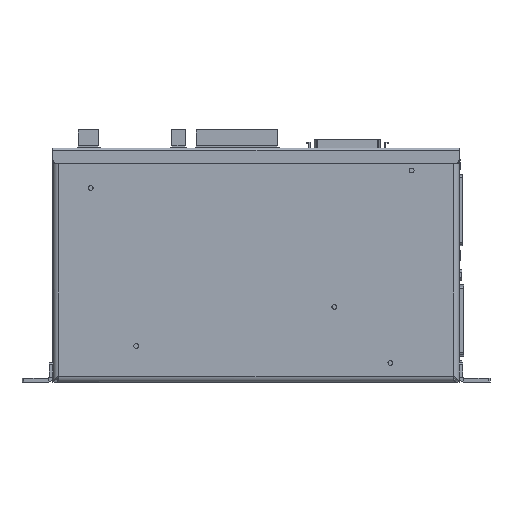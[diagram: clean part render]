
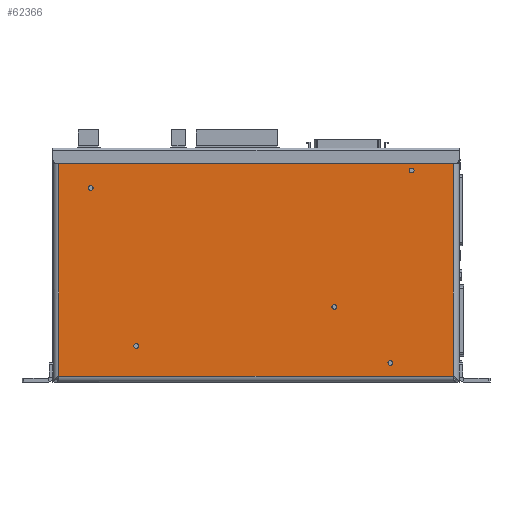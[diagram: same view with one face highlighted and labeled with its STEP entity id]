
A CAD part, front view. The second image highlights one B-rep face of the part: STEP entity #62366.
In plain terms, the highlighted planar face has unit normal (0, -1, 0).
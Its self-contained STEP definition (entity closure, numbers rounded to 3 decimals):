
#2871 = CIRCLE ( 'NONE', #9192, 1.25 ) ;
#3439 = CIRCLE ( 'NONE', #19114, 1.25 ) ;
#3751 = AXIS2_PLACEMENT_3D ( 'NONE', #19690, #26420, #73336 ) ;
#4139 = CARTESIAN_POINT ( 'NONE',  ( 40.5, 0., -22.85 ) ) ;
#4603 = ORIENTED_EDGE ( 'NONE', *, *, #80440, .T. ) ;
#5089 = CIRCLE ( 'NONE', #64207, 1.25 ) ;
#6080 = CIRCLE ( 'NONE', #3751, 1.25 ) ;
#6206 = DIRECTION ( 'NONE',  ( 0., -1., 0. ) ) ;
#6858 = DIRECTION ( 'NONE',  ( 0., -1., 0. ) ) ;
#8386 = DIRECTION ( 'NONE',  ( 0., 0., -1. ) ) ;
#8772 = EDGE_LOOP ( 'NONE', ( #52245, #49761 ) ) ;
#8913 = ORIENTED_EDGE ( 'NONE', *, *, #81924, .T. ) ;
#9192 = AXIS2_PLACEMENT_3D ( 'NONE', #67789, #67225, #60510 ) ;
#9801 = ORIENTED_EDGE ( 'NONE', *, *, #29728, .F. ) ;
#9946 = EDGE_CURVE ( 'NONE', #32118, #29162, #42050, .T. ) ;
#10202 = DIRECTION ( 'NONE',  ( 0., -1., 0. ) ) ;
#10889 = AXIS2_PLACEMENT_3D ( 'NONE', #81296, #47641, #46765 ) ;
#11584 = VERTEX_POINT ( 'NONE', #86696 ) ;
#11944 = CIRCLE ( 'NONE', #40782, 1.25 ) ;
#12476 = CIRCLE ( 'NONE', #80254, 1.25 ) ;
#12537 = EDGE_CURVE ( 'NONE', #70263, #63054, #2871, .T. ) ;
#13107 = CARTESIAN_POINT ( 'NONE',  ( -85.5, 0., 39.9 ) ) ;
#14847 = CARTESIAN_POINT ( 'NONE',  ( -102., 0., 60.5 ) ) ;
#15764 = VECTOR ( 'NONE', #40964, 1000. ) ;
#17320 = FACE_BOUND ( 'NONE', #50120, .T. ) ;
#18021 = VERTEX_POINT ( 'NONE', #81719 ) ;
#19114 = AXIS2_PLACEMENT_3D ( 'NONE', #42681, #68785, #63813 ) ;
#19372 = EDGE_CURVE ( 'NONE', #59304, #31860, #52572, .T. ) ;
#19690 = CARTESIAN_POINT ( 'NONE',  ( 69.5, 0., -50.6 ) ) ;
#19800 = CARTESIAN_POINT ( 'NONE',  ( -105., 0., 52.5 ) ) ;
#20370 = EDGE_LOOP ( 'NONE', ( #56194, #9801 ) ) ;
#22689 = VERTEX_POINT ( 'NONE', #4139 ) ;
#22984 = ORIENTED_EDGE ( 'NONE', *, *, #38326, .F. ) ;
#24708 = ORIENTED_EDGE ( 'NONE', *, *, #54199, .F. ) ;
#25714 = CARTESIAN_POINT ( 'NONE',  ( 80.5, 0., 50.15 ) ) ;
#26215 = CARTESIAN_POINT ( 'NONE',  ( 69.5, 0., -50.6 ) ) ;
#26420 = DIRECTION ( 'NONE',  ( 0., -1., 0. ) ) ;
#28256 = DIRECTION ( 'NONE',  ( 0., 0., -1. ) ) ;
#29162 = VERTEX_POINT ( 'NONE', #71435 ) ;
#29655 = VECTOR ( 'NONE', #71163, 1000. ) ;
#29728 = EDGE_CURVE ( 'NONE', #35457, #80267, #61474, .T. ) ;
#30639 = EDGE_CURVE ( 'NONE', #33779, #29162, #51809, .T. ) ;
#31117 = CARTESIAN_POINT ( 'NONE',  ( -85.5, 0., 41.15 ) ) ;
#31860 = VERTEX_POINT ( 'NONE', #60315 ) ;
#32118 = VERTEX_POINT ( 'NONE', #70456 ) ;
#32902 = DIRECTION ( 'NONE',  ( 0., 0., -1. ) ) ;
#33149 = ORIENTED_EDGE ( 'NONE', *, *, #30639, .T. ) ;
#33547 = CARTESIAN_POINT ( 'NONE',  ( 69.5, 0., -49.35 ) ) ;
#33596 = LINE ( 'NONE', #81183, #15764 ) ;
#33779 = VERTEX_POINT ( 'NONE', #63001 ) ;
#34984 = CARTESIAN_POINT ( 'NONE',  ( 80.5, 0., 48.9 ) ) ;
#35457 = VERTEX_POINT ( 'NONE', #75806 ) ;
#36381 = DIRECTION ( 'NONE',  ( 0., 0., -1. ) ) ;
#36576 = DIRECTION ( 'NONE',  ( 0., 0., -1. ) ) ;
#37242 = CARTESIAN_POINT ( 'NONE',  ( 40.5, 0., -21.6 ) ) ;
#38073 = ORIENTED_EDGE ( 'NONE', *, *, #9946, .F. ) ;
#38326 = EDGE_CURVE ( 'NONE', #22689, #85996, #3439, .T. ) ;
#39309 = AXIS2_PLACEMENT_3D ( 'NONE', #34984, #6858, #28256 ) ;
#39431 = CARTESIAN_POINT ( 'NONE',  ( -61.94, 0., -41.86 ) ) ;
#40782 = AXIS2_PLACEMENT_3D ( 'NONE', #13107, #46312, #60114 ) ;
#40964 = DIRECTION ( 'NONE',  ( 1., 0., 0. ) ) ;
#42050 = LINE ( 'NONE', #19800, #75623 ) ;
#42681 = CARTESIAN_POINT ( 'NONE',  ( 40.5, 0., -21.6 ) ) ;
#45380 = DIRECTION ( 'NONE',  ( 1., 0., 0. ) ) ;
#46021 = CIRCLE ( 'NONE', #39309, 1.25 ) ;
#46066 = EDGE_CURVE ( 'NONE', #31860, #59304, #11944, .T. ) ;
#46312 = DIRECTION ( 'NONE',  ( 0., -1., 0. ) ) ;
#46765 = DIRECTION ( 'NONE',  ( 0., 0., -1. ) ) ;
#47061 = EDGE_CURVE ( 'NONE', #86644, #18021, #6080, .T. ) ;
#47641 = DIRECTION ( 'NONE',  ( 0., -1., 0. ) ) ;
#49761 = ORIENTED_EDGE ( 'NONE', *, *, #12537, .F. ) ;
#50120 = EDGE_LOOP ( 'NONE', ( #72748, #24708 ) ) ;
#50467 = CARTESIAN_POINT ( 'NONE',  ( -105., 0., -60.5 ) ) ;
#51222 = DIRECTION ( 'NONE',  ( 0., 0., -1. ) ) ;
#51303 = CARTESIAN_POINT ( 'NONE',  ( 102., 0., -57.793 ) ) ;
#51809 = LINE ( 'NONE', #51303, #29655 ) ;
#52092 = CARTESIAN_POINT ( 'NONE',  ( -61.94, 0., -41.86 ) ) ;
#52245 = ORIENTED_EDGE ( 'NONE', *, *, #67459, .F. ) ;
#52381 = DIRECTION ( 'NONE',  ( 0., -1., 0. ) ) ;
#52572 = CIRCLE ( 'NONE', #10889, 1.25 ) ;
#53733 = CARTESIAN_POINT ( 'NONE',  ( 40.5, 0., -20.35 ) ) ;
#54194 = AXIS2_PLACEMENT_3D ( 'NONE', #37242, #76606, #36381 ) ;
#54199 = EDGE_CURVE ( 'NONE', #18021, #86644, #12476, .T. ) ;
#55562 = AXIS2_PLACEMENT_3D ( 'NONE', #52092, #52381, #51222 ) ;
#56194 = ORIENTED_EDGE ( 'NONE', *, *, #82754, .F. ) ;
#58201 = LINE ( 'NONE', #14847, #61285 ) ;
#58938 = DIRECTION ( 'NONE',  ( 0., -1., 0. ) ) ;
#59226 = DIRECTION ( 'NONE',  ( 0., 0., -1. ) ) ;
#59304 = VERTEX_POINT ( 'NONE', #31117 ) ;
#60114 = DIRECTION ( 'NONE',  ( 0., 0., -1. ) ) ;
#60315 = CARTESIAN_POINT ( 'NONE',  ( -85.5, 0., 38.65 ) ) ;
#60510 = DIRECTION ( 'NONE',  ( 0., 0., -1. ) ) ;
#61285 = VECTOR ( 'NONE', #8386, 1000. ) ;
#61474 = CIRCLE ( 'NONE', #55562, 1.25 ) ;
#61558 = EDGE_LOOP ( 'NONE', ( #81541, #22984 ) ) ;
#61782 = AXIS2_PLACEMENT_3D ( 'NONE', #50467, #10202, #36576 ) ;
#62366 = ADVANCED_FACE ( 'NONE', ( #68767, #75027, #70854, #73952, #17320, #86568 ), #84372, .T. ) ;
#63001 = CARTESIAN_POINT ( 'NONE',  ( 102., 0., -57.5 ) ) ;
#63054 = VERTEX_POINT ( 'NONE', #25714 ) ;
#63813 = DIRECTION ( 'NONE',  ( 0., 0., -1. ) ) ;
#64207 = AXIS2_PLACEMENT_3D ( 'NONE', #39431, #58938, #59226 ) ;
#64874 = ORIENTED_EDGE ( 'NONE', *, *, #19372, .F. ) ;
#67225 = DIRECTION ( 'NONE',  ( 0., -1., 0. ) ) ;
#67459 = EDGE_CURVE ( 'NONE', #63054, #70263, #46021, .T. ) ;
#67789 = CARTESIAN_POINT ( 'NONE',  ( 80.5, 0., 48.9 ) ) ;
#68767 = FACE_BOUND ( 'NONE', #79890, .T. ) ;
#68785 = DIRECTION ( 'NONE',  ( 0., -1., 0. ) ) ;
#69301 = EDGE_CURVE ( 'NONE', #85996, #22689, #71858, .T. ) ;
#70263 = VERTEX_POINT ( 'NONE', #80441 ) ;
#70456 = CARTESIAN_POINT ( 'NONE',  ( -102., 0., 52.5 ) ) ;
#70854 = FACE_BOUND ( 'NONE', #61558, .T. ) ;
#71163 = DIRECTION ( 'NONE',  ( 0., 0., 1. ) ) ;
#71435 = CARTESIAN_POINT ( 'NONE',  ( 102., 0., 52.5 ) ) ;
#71858 = CIRCLE ( 'NONE', #54194, 1.25 ) ;
#72748 = ORIENTED_EDGE ( 'NONE', *, *, #47061, .F. ) ;
#73070 = ORIENTED_EDGE ( 'NONE', *, *, #46066, .F. ) ;
#73336 = DIRECTION ( 'NONE',  ( 0., 0., -1. ) ) ;
#73952 = FACE_BOUND ( 'NONE', #8772, .T. ) ;
#75027 = FACE_BOUND ( 'NONE', #20370, .T. ) ;
#75623 = VECTOR ( 'NONE', #45380, 1000. ) ;
#75806 = CARTESIAN_POINT ( 'NONE',  ( -61.94, 0., -43.11 ) ) ;
#76606 = DIRECTION ( 'NONE',  ( 0., -1., 0. ) ) ;
#78420 = EDGE_LOOP ( 'NONE', ( #38073, #4603, #8913, #33149 ) ) ;
#79890 = EDGE_LOOP ( 'NONE', ( #64874, #73070 ) ) ;
#80254 = AXIS2_PLACEMENT_3D ( 'NONE', #26215, #6206, #32902 ) ;
#80267 = VERTEX_POINT ( 'NONE', #80292 ) ;
#80292 = CARTESIAN_POINT ( 'NONE',  ( -61.94, 0., -40.61 ) ) ;
#80440 = EDGE_CURVE ( 'NONE', #32118, #11584, #58201, .T. ) ;
#80441 = CARTESIAN_POINT ( 'NONE',  ( 80.5, 0., 47.65 ) ) ;
#81183 = CARTESIAN_POINT ( 'NONE',  ( -102.293, 0., -57.5 ) ) ;
#81296 = CARTESIAN_POINT ( 'NONE',  ( -85.5, 0., 39.9 ) ) ;
#81541 = ORIENTED_EDGE ( 'NONE', *, *, #69301, .F. ) ;
#81719 = CARTESIAN_POINT ( 'NONE',  ( 69.5, 0., -51.85 ) ) ;
#81924 = EDGE_CURVE ( 'NONE', #11584, #33779, #33596, .T. ) ;
#82754 = EDGE_CURVE ( 'NONE', #80267, #35457, #5089, .T. ) ;
#84372 = PLANE ( 'NONE',  #61782 ) ;
#85996 = VERTEX_POINT ( 'NONE', #53733 ) ;
#86568 = FACE_OUTER_BOUND ( 'NONE', #78420, .T. ) ;
#86644 = VERTEX_POINT ( 'NONE', #33547 ) ;
#86696 = CARTESIAN_POINT ( 'NONE',  ( -102., 0., -57.5 ) ) ;
